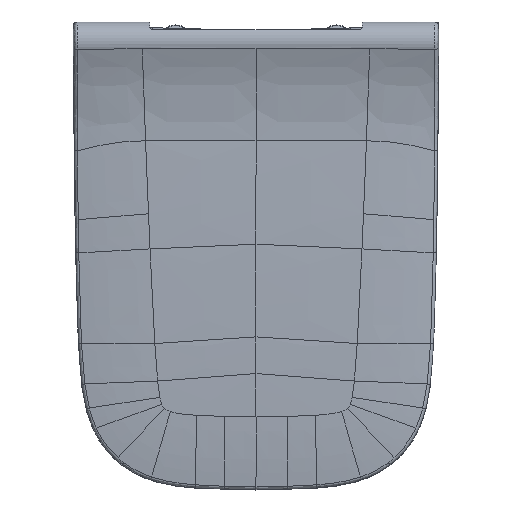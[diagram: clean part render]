
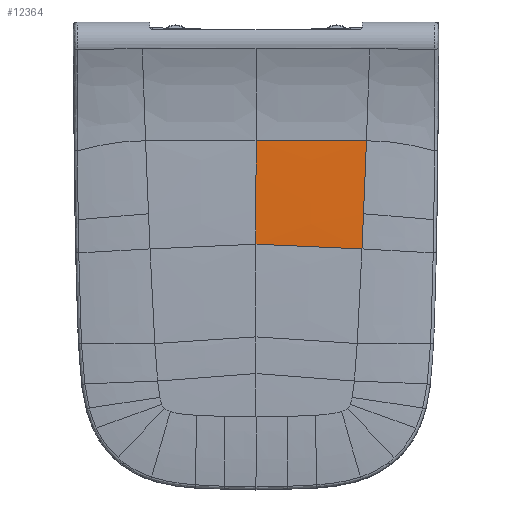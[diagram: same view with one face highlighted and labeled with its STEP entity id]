
A CAD part, top view. The second image highlights one B-rep face of the part: STEP entity #12364.
In plain terms, the highlighted free-form (B-spline) face has degree [2, 5] with [3, 6] control points.
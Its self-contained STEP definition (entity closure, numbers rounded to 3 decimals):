
#97=B_SPLINE_SURFACE_WITH_KNOTS('',2,5,((#26149,#26150,#26151,#26152,#26153,
#26154),(#26155,#26156,#26157,#26158,#26159,#26160),(#26161,#26162,#26163,
#26164,#26165,#26166)),.UNSPECIFIED.,.F.,.F.,.F.,(3,3),(6,6),(0.,1.),(0.,
1.),.UNSPECIFIED.);
#777=B_SPLINE_CURVE_WITH_KNOTS('',5,(#21363,#21364,#21365,#21366,#21367,
#21368),.UNSPECIFIED.,.F.,.F.,(6,6),(0.,1.),.UNSPECIFIED.);
#778=B_SPLINE_CURVE_WITH_KNOTS('',2,(#21388,#21389,#21390),
 .UNSPECIFIED.,.F.,.F.,(3,3),(0.,1.),.UNSPECIFIED.);
#867=B_SPLINE_CURVE_WITH_KNOTS('',5,(#25636,#25637,#25638,#25639,#25640,
#25641),.UNSPECIFIED.,.F.,.F.,(6,6),(0.,1.),
 .UNSPECIFIED.);
#880=B_SPLINE_CURVE_WITH_KNOTS('',3,(#26168,#26169,#26170,#26171,#26172,
#26173,#26174,#26175,#26176,#26177,#26178,#26179,#26180,#26181,#26182,#26183,
#26184,#26185,#26186,#26187,#26188,#26189,#26190,#26191,#26192,#26193,#26194,
#26195),.UNSPECIFIED.,.F.,.F.,(4,3,3,3,3,3,3,3,3,4),(0.,
0.125,0.249,0.372,0.495,
0.621,0.743,0.872,0.993,
1.),.UNSPECIFIED.);
#2593=FACE_OUTER_BOUND('',#3422,.T.);
#3422=EDGE_LOOP('',(#8296,#8297,#8298,#8299,#8300));
#4186=CIRCLE('',#13232,6872.773);
#4725=VERTEX_POINT('',#19429);
#4771=VERTEX_POINT('',#21361);
#4772=VERTEX_POINT('',#21387);
#4860=VERTEX_POINT('',#25629);
#4873=VERTEX_POINT('',#26167);
#5992=EDGE_CURVE('',#4771,#4725,#777,.T.);
#5993=EDGE_CURVE('',#4725,#4772,#778,.T.);
#6123=EDGE_CURVE('',#4860,#4771,#867,.T.);
#6140=EDGE_CURVE('',#4860,#4873,#880,.T.);
#6141=EDGE_CURVE('',#4772,#4873,#4186,.T.);
#8296=ORIENTED_EDGE('',*,*,#5992,.F.);
#8297=ORIENTED_EDGE('',*,*,#6123,.F.);
#8298=ORIENTED_EDGE('',*,*,#6140,.T.);
#8299=ORIENTED_EDGE('',*,*,#6141,.F.);
#8300=ORIENTED_EDGE('',*,*,#5993,.F.);
#12364=ADVANCED_FACE('',(#2593),#97,.F.);
#13232=AXIS2_PLACEMENT_3D('',#26196,#14131,#14132);
#14131=DIRECTION('center_axis',(-1.,0.,0.));
#14132=DIRECTION('ref_axis',(0.,0.019,1.));
#19429=CARTESIAN_POINT('',(102.099,-199.318,29.456));
#21361=CARTESIAN_POINT('',(103.557,-165.443,29.266));
#21363=CARTESIAN_POINT('Ctrl Pts',(103.557,-165.443,29.266));
#21364=CARTESIAN_POINT('Ctrl Pts',(103.274,-172.215,29.313));
#21365=CARTESIAN_POINT('Ctrl Pts',(102.991,-179.013,29.356));
#21366=CARTESIAN_POINT('Ctrl Pts',(102.696,-185.701,29.394));
#21367=CARTESIAN_POINT('Ctrl Pts',(102.394,-192.505,29.428));
#21368=CARTESIAN_POINT('Ctrl Pts',(102.099,-199.318,29.456));
#21387=CARTESIAN_POINT('',(0.,-194.774,30.474));
#21388=CARTESIAN_POINT('Ctrl Pts',(102.099,-199.318,29.456));
#21389=CARTESIAN_POINT('Ctrl Pts',(51.05,-194.774,30.474));
#21390=CARTESIAN_POINT('Ctrl Pts',(0.,-194.774,30.474));
#25629=CARTESIAN_POINT('',(106.405,-95.117,28.577));
#25636=CARTESIAN_POINT('Ctrl Pts',(106.405,-95.117,28.577));
#25637=CARTESIAN_POINT('Ctrl Pts',(105.849,-109.176,28.752));
#25638=CARTESIAN_POINT('Ctrl Pts',(105.285,-123.245,28.909));
#25639=CARTESIAN_POINT('Ctrl Pts',(104.716,-137.321,29.048));
#25640=CARTESIAN_POINT('Ctrl Pts',(104.144,-151.393,29.167));
#25641=CARTESIAN_POINT('Ctrl Pts',(103.557,-165.443,29.266));
#26149=CARTESIAN_POINT('Ctrl Pts',(-134.819,-23.46,27.5));
#26150=CARTESIAN_POINT('Ctrl Pts',(-134.614,-59.265,27.899));
#26151=CARTESIAN_POINT('Ctrl Pts',(-134.263,-95.068,28.223));
#26152=CARTESIAN_POINT('Ctrl Pts',(-133.92,-130.875,28.473));
#26153=CARTESIAN_POINT('Ctrl Pts',(-133.619,-166.678,28.647));
#26154=CARTESIAN_POINT('Ctrl Pts',(-132.979,-202.482,28.748));
#26155=CARTESIAN_POINT('Ctrl Pts',(0.,-22.092,27.5));
#26156=CARTESIAN_POINT('Ctrl Pts',(0.,-55.066,29.152));
#26157=CARTESIAN_POINT('Ctrl Pts',(0.,-88.066,30.448));
#26158=CARTESIAN_POINT('Ctrl Pts',(0.,-121.047,31.388));
#26159=CARTESIAN_POINT('Ctrl Pts',(0.,-154.069,31.973));
#26160=CARTESIAN_POINT('Ctrl Pts',(0.,-187.066,32.201));
#26161=CARTESIAN_POINT('Ctrl Pts',(134.819,-23.46,27.5));
#26162=CARTESIAN_POINT('Ctrl Pts',(134.614,-59.265,27.899));
#26163=CARTESIAN_POINT('Ctrl Pts',(134.263,-95.068,28.223));
#26164=CARTESIAN_POINT('Ctrl Pts',(133.92,-130.875,28.473));
#26165=CARTESIAN_POINT('Ctrl Pts',(133.619,-166.678,28.647));
#26166=CARTESIAN_POINT('Ctrl Pts',(132.979,-202.482,28.748));
#26167=CARTESIAN_POINT('',(0.,-95.039,29.274));
#26168=CARTESIAN_POINT('Ctrl Pts',(106.405,-95.117,28.577));
#26169=CARTESIAN_POINT('Ctrl Pts',(101.972,-95.114,28.634));
#26170=CARTESIAN_POINT('Ctrl Pts',(97.54,-95.11,28.687));
#26171=CARTESIAN_POINT('Ctrl Pts',(93.107,-95.105,28.737));
#26172=CARTESIAN_POINT('Ctrl Pts',(88.723,-95.101,28.787));
#26173=CARTESIAN_POINT('Ctrl Pts',(84.339,-95.096,28.834));
#26174=CARTESIAN_POINT('Ctrl Pts',(79.955,-95.091,28.877));
#26175=CARTESIAN_POINT('Ctrl Pts',(75.582,-95.087,28.92));
#26176=CARTESIAN_POINT('Ctrl Pts',(71.208,-95.082,28.959));
#26177=CARTESIAN_POINT('Ctrl Pts',(66.835,-95.078,28.995));
#26178=CARTESIAN_POINT('Ctrl Pts',(62.472,-95.073,29.031));
#26179=CARTESIAN_POINT('Ctrl Pts',(58.109,-95.069,29.064));
#26180=CARTESIAN_POINT('Ctrl Pts',(53.746,-95.065,29.093));
#26181=CARTESIAN_POINT('Ctrl Pts',(49.267,-95.061,29.123));
#26182=CARTESIAN_POINT('Ctrl Pts',(44.789,-95.057,29.15));
#26183=CARTESIAN_POINT('Ctrl Pts',(40.31,-95.054,29.172));
#26184=CARTESIAN_POINT('Ctrl Pts',(35.973,-95.051,29.194));
#26185=CARTESIAN_POINT('Ctrl Pts',(31.636,-95.048,29.212));
#26186=CARTESIAN_POINT('Ctrl Pts',(27.298,-95.046,29.227));
#26187=CARTESIAN_POINT('Ctrl Pts',(22.749,-95.044,29.243));
#26188=CARTESIAN_POINT('Ctrl Pts',(18.199,-95.042,29.255));
#26189=CARTESIAN_POINT('Ctrl Pts',(13.649,-95.041,29.262));
#26190=CARTESIAN_POINT('Ctrl Pts',(9.333,-95.04,29.27));
#26191=CARTESIAN_POINT('Ctrl Pts',(5.017,-95.039,29.274));
#26192=CARTESIAN_POINT('Ctrl Pts',(0.701,-95.039,
29.274));
#26193=CARTESIAN_POINT('Ctrl Pts',(0.467,-95.039,
29.274));
#26194=CARTESIAN_POINT('Ctrl Pts',(0.234,-95.039,
29.274));
#26195=CARTESIAN_POINT('Ctrl Pts',(0.,-95.039,
29.274));
#26196=CARTESIAN_POINT('Origin',(0.,-227.598,
-6842.22));
